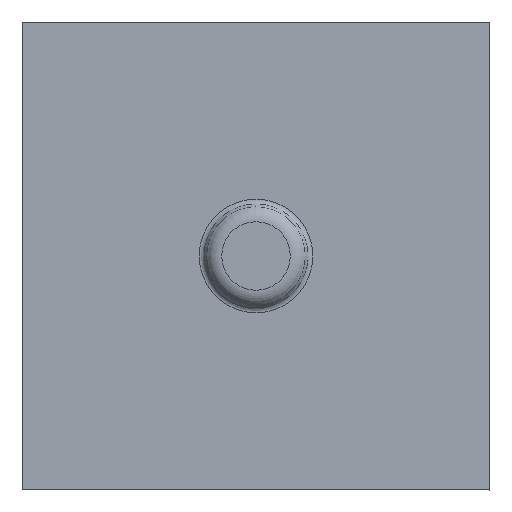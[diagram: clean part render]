
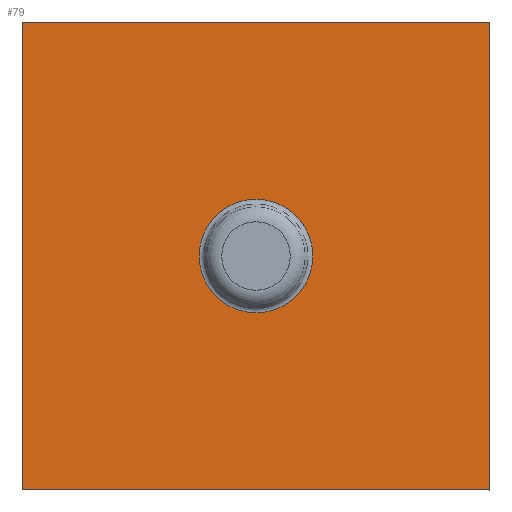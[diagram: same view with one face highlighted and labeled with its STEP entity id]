
A CAD part, top view. The second image highlights one B-rep face of the part: STEP entity #79.
In plain terms, the highlighted planar face has unit normal (0, 0, 1).
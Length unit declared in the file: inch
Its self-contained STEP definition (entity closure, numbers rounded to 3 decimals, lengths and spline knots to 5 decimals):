
#79=ADVANCED_FACE('',(#102,#103),#104,.T.);
#102=FACE_OUTER_BOUND('',#138,.T.);
#103=FACE_BOUND('',#139,.T.);
#104=PLANE('',#140);
#138=EDGE_LOOP('',(#185,#186,#187,#188));
#139=EDGE_LOOP('',(#189));
#140=AXIS2_PLACEMENT_3D('',#190,#191,#192);
#185=ORIENTED_EDGE('',*,*,#253,.T.);
#186=ORIENTED_EDGE('',*,*,#254,.T.);
#187=ORIENTED_EDGE('',*,*,#255,.T.);
#188=ORIENTED_EDGE('',*,*,#256,.T.);
#189=ORIENTED_EDGE('',*,*,#252,.F.);
#190=CARTESIAN_POINT('',(0.,-1.9425,0.0));
#191=DIRECTION('',(0.0,0.0,1.0));
#192=DIRECTION('',(0.,-1.0,0.0));
#252=EDGE_CURVE('',#280,#280,#281,.T.);
#253=EDGE_CURVE('',#282,#283,#284,.T.);
#254=EDGE_CURVE('',#283,#285,#286,.T.);
#255=EDGE_CURVE('',#285,#287,#288,.T.);
#256=EDGE_CURVE('',#287,#282,#289,.T.);
#280=VERTEX_POINT('',#320);
#281=CIRCLE('',#321,0.24295);
#282=VERTEX_POINT('',#322);
#283=VERTEX_POINT('',#323);
#284=LINE('',#324,#325);
#285=VERTEX_POINT('',#326);
#286=LINE('',#327,#328);
#287=VERTEX_POINT('',#329);
#288=LINE('',#330,#331);
#289=LINE('',#332,#333);
#320=CARTESIAN_POINT('',(3.82275,1.64695,0.0));
#321=AXIS2_PLACEMENT_3D('',#364,#365,#366);
#322=CARTESIAN_POINT('',(4.82275,0.404,0.0));
#323=CARTESIAN_POINT('',(4.82275,2.404,0.0));
#324=CARTESIAN_POINT('',(4.82275,4216.02609,0.0));
#325=VECTOR('',#367,1.0);
#326=CARTESIAN_POINT('',(2.82275,2.404,0.0));
#327=CARTESIAN_POINT('',(5812.82933,2.404,0.0));
#328=VECTOR('',#368,1.0);
#329=CARTESIAN_POINT('',(2.82275,0.404,0.0));
#330=CARTESIAN_POINT('',(2.82275,5884.44307,0.0));
#331=VECTOR('',#369,1.0);
#332=CARTESIAN_POINT('',(7753.54742,0.404,0.0));
#333=VECTOR('',#370,1.0);
#364=CARTESIAN_POINT('',(3.82275,1.404,0.0));
#365=DIRECTION('',(0.0,0.0,1.0));
#366=DIRECTION('',(0.0,-1.0,0.0));
#367=DIRECTION('',(0.0,1.0,0.0));
#368=DIRECTION('',(-1.0,0.0,0.0));
#369=DIRECTION('',(0.0,-1.0,0.0));
#370=DIRECTION('',(1.0,0.0,-0.0));
